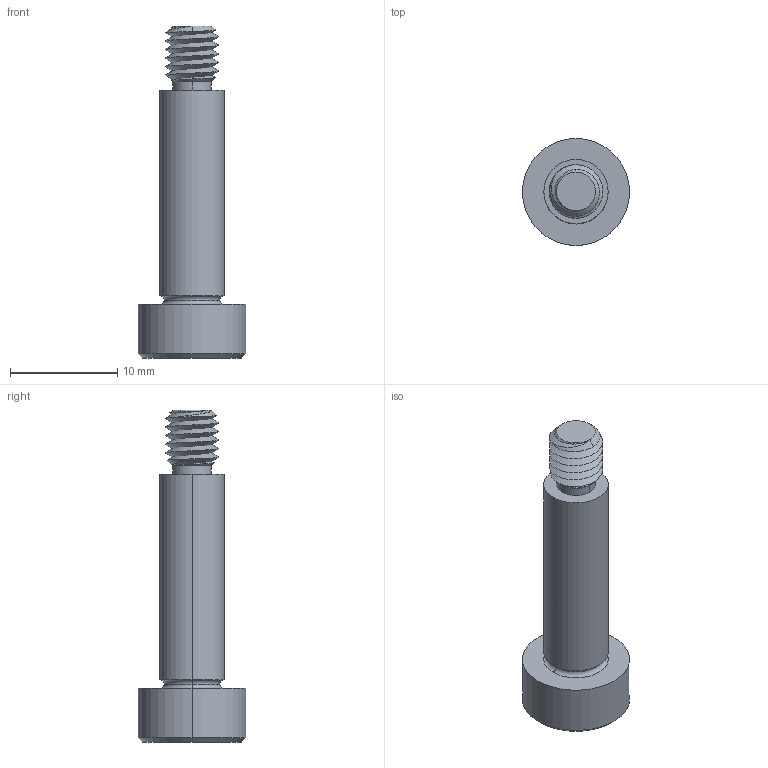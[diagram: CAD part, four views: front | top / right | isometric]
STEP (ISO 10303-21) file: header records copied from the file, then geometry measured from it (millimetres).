
FILE_DESCRIPTION (( 'STEP AP203' ), '1' );
FILE_NAME ('P0130.060-020-B2.step', '2021-11-09T21:25:55', ( '' ), ( '' ), 'SwSTEP 2.0', 'SolidWorks 2019', '' );
FILE_SCHEMA (( 'CONFIG_CONTROL_DESIGN' ));
Length unit declared in the file: millimetre
Products named in the file (1): P0130.060-020-B2
Bounding box: 10 x 10 x 31 mm (x, y, z)
Volume: 1009.2 mm3; surface area: 864.5 mm2
Topology: 1 solids, 1 shells, 53 faces, 121 edges, 71 vertices
Faces by surface type: cylinder 17, plane 16, cone 14, torus 4, bspline 2
Entity records: 2367 total; most frequent: CARTESIAN_POINT 1186, ORIENTED_EDGE 238, DIRECTION 226, EDGE_CURVE 119, AXIS2_PLACEMENT_3D 92, VERTEX_POINT 71, EDGE_LOOP 56, FACE_OUTER_BOUND 53
